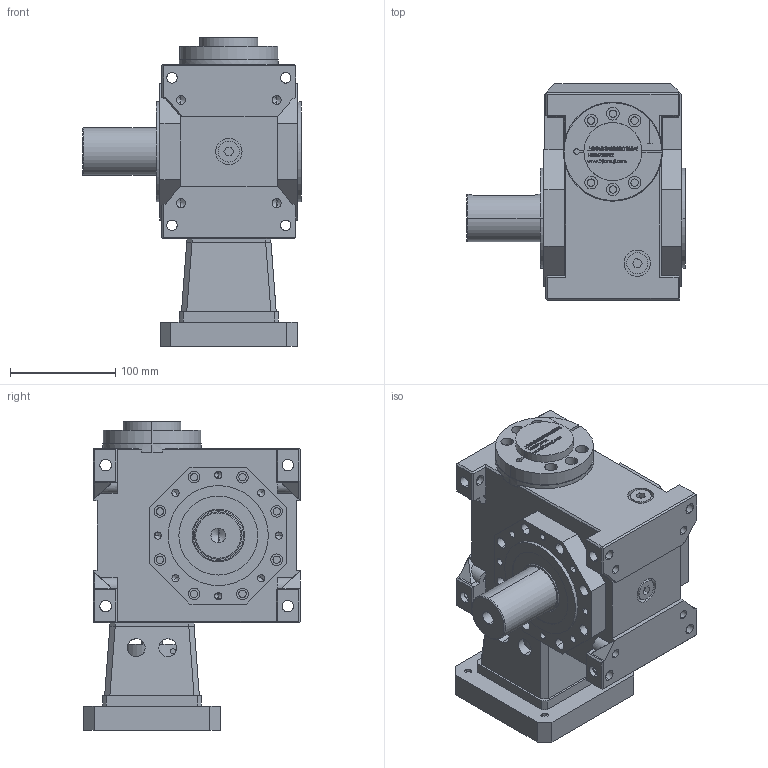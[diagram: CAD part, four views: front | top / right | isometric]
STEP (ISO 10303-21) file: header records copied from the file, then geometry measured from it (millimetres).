
FILE_DESCRIPTION (( 'STEP AP203' ), '1' );
FILE_NAME ('FXLB063-(5~90)-ASL-22-110-145-M8.STEP', '2022-11-05T03:01:06', ( '' ), ( '' ), 'SwSTEP 2.0', 'SolidWorks 2020', '' );
FILE_SCHEMA (( 'CONFIG_CONTROL_DESIGN' ));
Length unit declared in the file: millimetre
Products named in the file (1): FXLB063-(5~90)-ASL-22-110-145-M8
Bounding box: 208 x 206 x 293.2 mm (x, y, z)
Volume: 4461448.6 mm3; surface area: 442533.1 mm2
Topology: 16 solids, 16 shells, 1981 faces, 5138 edges, 3331 vertices
Faces by surface type: plane 1078, cylinder 425, bspline 370, cone 86, torus 22
Entity records: 78305 total; most frequent: CARTESIAN_POINT 31777, ORIENTED_EDGE 10152, DIRECTION 8392, EDGE_CURVE 5076, VERTEX_POINT 3331, LINE 3304, VECTOR 3304, AXIS2_PLACEMENT_3D 2544
